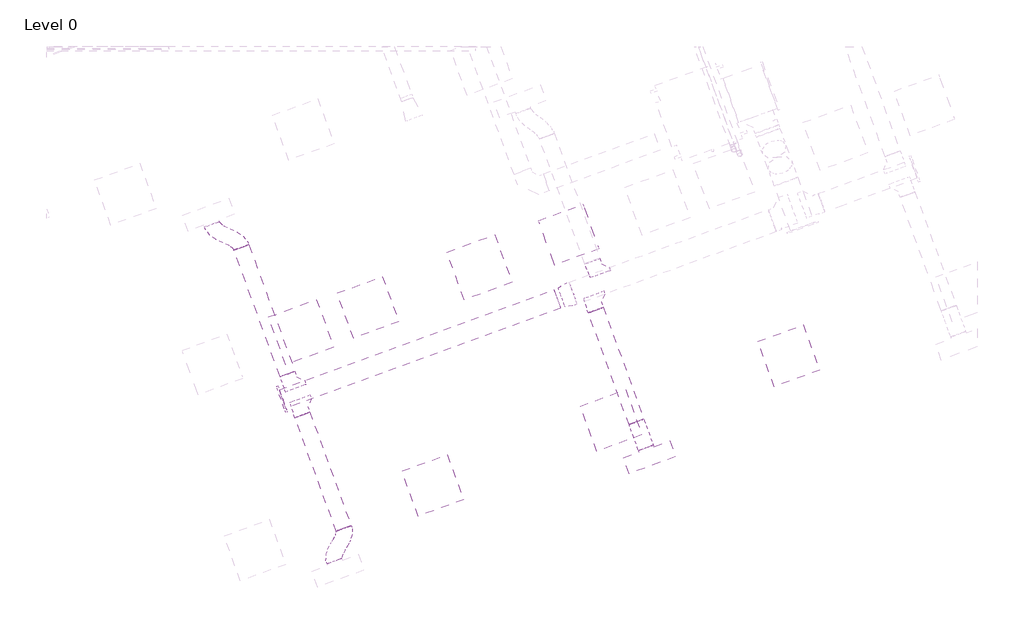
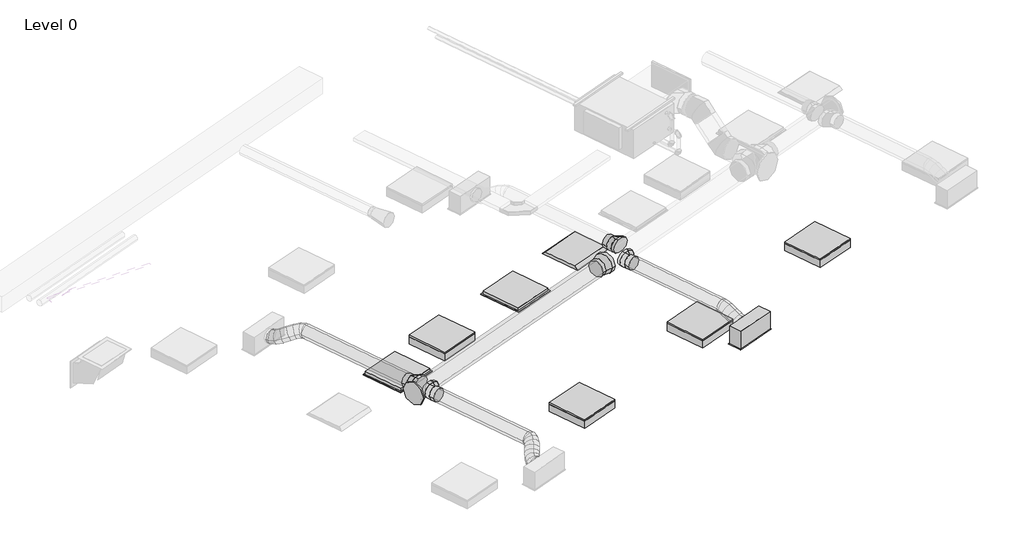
# One storey, part 20 of 34: 7 duct segments, 6 duct fittings, 5 light fixtures, 3 air terminals.
"""IFC4 building model written with IfcOpenShell, lengths in millimetres."""

from ifc_helpers import new_model, si_unit, point, frame, frame_2d, origin, place, context, project, spatial, circle_curve, ellipse_curve, trimmed, segment, composite_curve, outline, extrude, transform, mapped, element, save
from ifc_brep_helpers import plane_surface, cylinder_surface, advanced_brep
from components import return_grille_rectangular_hosted_standard_7b12617c, supply_diffuser_with_plenum_linear_slot_hosted_7a86b773, dw144_round_blank_end_standard_9aa061e7, dw144_round_shoe_branch_slip_joint1_standard_2_15a2edd8, dw144_round_shoe_branch_slip_joint1_standard_2_559552f4, dw144_round_shoe_branch_slip_joint1_standard_2_3a899113, dw144_round_taper_slip_joint_standard_7b2c0993, light_fixture_b730b5ca, troffer_light_2x2_parabolic_2_x2_2_lamp_120v_6a063ff3

model = new_model("IFC4")

# Units and contexts
model_context = context("Model", 3, world=origin())
ifc_project = project(units=[si_unit("LENGTHUNIT", "METRE", prefix="MILLI")], contexts=[model_context])

# Site, building, storey
site = spatial("IfcSite", under=ifc_project)
building = spatial("IfcBuilding", under=site)
storey = spatial("IfcBuildingStorey", under=building, Name="Level 0", Elevation=0.0)

# Air terminals
placement = place(None, origin())
return_grille_rectangular_hosted_standard_shape = return_grille_rectangular_hosted_standard_7b12617c(model_context)
element("IfcAirTerminal", 1, ObjectType="Return Grille - Rectangular - Hosted : Standard", at=placement, inside=storey, context=model_context, shape_type="MappedRepresentation", body=[
    mapped(return_grille_rectangular_hosted_standard_shape, transform((43552.4694696, 7593.8200472, 2800.0), x_axis=(0.939692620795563, 0.34202014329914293, 0.0), y_axis=(0.34202014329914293, -0.939692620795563, 0.0), z_axis=(0.0, 0.0, -1.0))),
])
element("IfcAirTerminal", 2, ObjectType="Return Grille - Rectangular - Hosted : Standard", at=placement, inside=storey, context=model_context, shape_type="MappedRepresentation", body=[
    mapped(return_grille_rectangular_hosted_standard_shape, transform((41292.9785622, 6771.4326123, 2800.0), x_axis=(0.939692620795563, 0.34202014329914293, 0.0), y_axis=(0.34202014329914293, -0.939692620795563, 0.0), z_axis=(0.0, 0.0, -1.0))),
])
supply_diffuser_with_plenum_linear_slot_hosted_shape = supply_diffuser_with_plenum_linear_slot_hosted_7a86b773(model_context)
element("IfcAirTerminal", 3, ObjectType="Supply Diffuser with Plenum - Linear Slot - Hosted : 24\" x 8\"-200 In Inlet  4-Slot", at=placement, inside=storey, context=model_context, shape_type="MappedRepresentation", body=[
    mapped(supply_diffuser_with_plenum_linear_slot_hosted_shape, transform((45706.1610442, 5185.1663567, 2800.0), x_axis=(-0.9396926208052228, -0.34202014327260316, 0.0), y_axis=(-0.34202014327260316, 0.9396926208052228, 0.0), z_axis=(0.0, 0.0, -1.0))),
])

# Duct fittings
dw144_round_blank_end_standard_shape = dw144_round_blank_end_standard_9aa061e7(model_context)
element("IfcDuctFitting", 4, ObjectType="DW144 Round Blank End : Standard", at=placement, inside=storey, context=model_context, shape_type="MappedRepresentation", body=[
    mapped(dw144_round_blank_end_standard_shape, transform((41058.5733499, 5925.2041513, 3072.2088531), x_axis=(-0.9396926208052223, -0.3420201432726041, 0.0), y_axis=(0.3420201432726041, -0.9396926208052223, 0.0), z_axis=(0.0, 0.0, 1.0))),
])
dw144_round_shoe_branch_slip_joint1_standard_2_shape = dw144_round_shoe_branch_slip_joint1_standard_2_15a2edd8(model_context)
element("IfcDuctFitting", 5, ObjectType="DW144 Round Shoe Branch - Slip Joint1 : Standard 2", at=placement, inside=storey, context=model_context, shape_type="MappedRepresentation", body=[
    mapped(dw144_round_shoe_branch_slip_joint1_standard_2_shape, transform((41257.502944, 5864.5863807, 3072.2088531), x_axis=(0.3420201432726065, -0.9396926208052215, 0.0), y_axis=(-0.9396926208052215, -0.3420201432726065, 0.0), z_axis=(0.0, 0.0, -1.0))),
])
dw144_round_shoe_branch_slip_joint1_standard_2_2_shape = dw144_round_shoe_branch_slip_joint1_standard_2_559552f4(model_context)
element("IfcDuctFitting", 6, ObjectType="DW144 Round Shoe Branch - Slip Joint1 : Standard 2", at=placement, inside=storey, context=model_context, shape_type="MappedRepresentation", body=[
    mapped(dw144_round_shoe_branch_slip_joint1_standard_2_2_shape, transform((41171.9979082, 6099.5095359, 3072.2088531), x_axis=(-0.34202014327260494, 0.9396926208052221, 0.0), y_axis=(0.9396926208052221, 0.34202014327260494, 0.0), z_axis=(0.0, 0.0, -1.0))),
])
dw144_round_shoe_branch_slip_joint1_standard_2_3_shape = dw144_round_shoe_branch_slip_joint1_standard_2_3a899113(model_context)
element("IfcDuctFitting", 7, ObjectType="DW144 Round Shoe Branch - Slip Joint1 : Standard 2", at=placement, inside=storey, context=model_context, shape_type="MappedRepresentation", body=[
    mapped(dw144_round_shoe_branch_slip_joint1_standard_2_3_shape, transform((45034.2380322, 7531.8544227, 3072.2088531), x_axis=(-0.342020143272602, 0.9396926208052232, 0.0), y_axis=(-0.9396926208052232, -0.342020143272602, 0.0), z_axis=(0.0, 0.0, 1.0))),
])
element("IfcDuctFitting", 8, ObjectType="DW144 Round Shoe Branch - Slip Joint1 : Standard 2", at=placement, inside=storey, context=model_context, shape_type="MappedRepresentation", body=[
    mapped(dw144_round_shoe_branch_slip_joint1_standard_2_3_shape, transform((44975.9560198, 7191.3881733, 3072.2088531), x_axis=(0.34202014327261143, -0.9396926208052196, 0.0), y_axis=(-0.9396926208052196, -0.34202014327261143, 0.0), z_axis=(0.0, 0.0, -1.0))),
])
dw144_round_taper_slip_joint_standard_shape = dw144_round_taper_slip_joint_standard_7b2c0993(model_context)
element("IfcDuctFitting", 9, ObjectType="DW144 Round Taper - Slip Joint : Standard", at=placement, inside=storey, context=model_context, shape_type="MappedRepresentation", body=[
    mapped(dw144_round_taper_slip_joint_standard_shape, transform((44738.6405983, 7264.6390896, 3072.2088531), x_axis=(-0.9396926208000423, -0.3420201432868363, 0.0), y_axis=(0.3420201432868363, -0.9396926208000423, 0.0), z_axis=(0.0, 0.0, 1.0))),
])

# Duct segments
element("IfcDuctSegment", 10, ObjectType="DW144 Segmented Bend / Shoe Branch", at=placement, inside=storey, context=model_context, shape_type="SweptSolid", body=[
    extrude(outline(composite_curve([segment(trimmed(circle_curve(frame_2d((0.0, -125.0)), 125.0), [point((-125.0, -125.0))], [point((0.0, 0.0))], False, "CARTESIAN"), True, "CONTINUOUS"), segment(trimmed(circle_curve(frame_2d((0.0, -125.0)), 125.0), [point((0.0, 0.0))], [point((125.0, -125.0))], False, "CARTESIAN"), True, "CONTINUOUS"), segment(trimmed(circle_curve(frame_2d((0.0, -125.0)), 125.0), [point((125.0, -125.0))], [point((0.0, -250.0))], False, "CARTESIAN"), True, "CONTINUOUS"), segment(trimmed(circle_curve(frame_2d((0.0, -125.0)), 125.0), [point((0.0, -250.0))], [point((-125.0, -125.0))], False, "CARTESIAN"), True, "CONTINUOUS")], self_intersect=False)), frame((41058.5733499, 5925.2041513, 2947.2088531), z_axis=(0.9396926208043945, 0.34202014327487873, 0.0), x_axis=(0.34202014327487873, -0.9396926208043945, 0.0)), (0.0, 0.0, 1.0), 3702.9444966),
])
element("IfcDuctSegment", 11, ObjectType="DW144 Segmented Bend / Shoe Branch", at=placement, inside=storey, context=model_context, shape_type="SweptSolid", body=[
    extrude(outline(composite_curve([segment(trimmed(circle_curve(frame_2d((0.0, 100.0)), 100.0), [point((100.0, 100.0))], [point((0.0, 0.0))], False, "CARTESIAN"), True, "CONTINUOUS"), segment(trimmed(circle_curve(frame_2d((0.0, 100.0)), 100.0), [point((0.0, 0.0))], [point((-99.9999999, 100.0))], False, "CARTESIAN"), True, "CONTINUOUS"), segment(trimmed(circle_curve(frame_2d((0.0, 100.0)), 100.0), [point((-99.9999999, 100.0))], [point((0.0, 200.0))], False, "CARTESIAN"), True, "CONTINUOUS"), segment(trimmed(circle_curve(frame_2d((0.0, 100.0)), 100.0), [point((0.0, 200.0))], [point((100.0, 100.0))], False, "CARTESIAN"), True, "CONTINUOUS")], self_intersect=False)), frame((45542.5721876, 5634.6230463, 3172.2088531), z_axis=(-0.3420201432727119, 0.9396926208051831, 0.0), x_axis=(0.9396926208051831, 0.3420201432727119, 0.0)), (0.0, 0.0, 1.0), 1506.6748451),
])
element("IfcDuctSegment", 12, ObjectType="DW144 Segmented Bend / Shoe Branch", at=placement, inside=storey, context=model_context, shape_type="SweptSolid", body=[
    extrude(outline(composite_curve([segment(trimmed(circle_curve(frame_2d((0.0, 100.0)), 100.0), [point((100.0, 100.0))], [point((0.0, 0.0))], False, "CARTESIAN"), True, "CONTINUOUS"), segment(trimmed(circle_curve(frame_2d((0.0, 100.0)), 100.0), [point((0.0, 0.0))], [point((-100.0, 100.0))], False, "CARTESIAN"), True, "CONTINUOUS"), segment(trimmed(circle_curve(frame_2d((0.0, 100.0)), 100.0), [point((-100.0, 100.0))], [point((0.0, 200.0))], False, "CARTESIAN"), True, "CONTINUOUS"), segment(trimmed(circle_curve(frame_2d((0.0, 100.0)), 100.0), [point((0.0, 200.0))], [point((100.0, 100.0))], False, "CARTESIAN"), True, "CONTINUOUS")], self_intersect=False)), frame((41832.6696155, 4284.328938, 3172.2088531), z_axis=(-0.3420201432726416, 0.9396926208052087, 0.0), x_axis=(0.9396926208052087, 0.3420201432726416, 0.0)), (0.0, 0.0, 1.0), 1531.6748453),
])
element("IfcDuctSegment", 13, ObjectType="DW144 Segmented Bend / Shoe Branch", at=placement, inside=storey, context=model_context, shape_type="SweptSolid", body=[
    extrude(outline(composite_curve([segment(trimmed(circle_curve(frame_2d((0.0, -100.0)), 100.0), [point((-100.0, -100.0))], [point((0.0, 0.0))], False, "CARTESIAN"), True, "CONTINUOUS"), segment(trimmed(circle_curve(frame_2d((0.0, -100.0)), 100.0), [point((0.0, 0.0))], [point((100.0, -100.0))], False, "CARTESIAN"), True, "CONTINUOUS"), segment(trimmed(circle_curve(frame_2d((0.0, -100.0)), 100.0), [point((100.0, -100.0))], [point((0.0, -200.0))], False, "CARTESIAN"), True, "CONTINUOUS"), segment(trimmed(circle_curve(frame_2d((0.0, -100.0)), 100.0), [point((0.0, -200.0))], [point((-100.0, -100.0))], False, "CARTESIAN"), True, "CONTINUOUS")], self_intersect=False)), frame((41120.6948867, 6240.463429, 2972.2088531), z_axis=(-0.34202014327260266, 0.9396926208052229, 0.0), x_axis=(0.9396926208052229, 0.34202014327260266, 0.0)), (0.0, 0.0, 1.0), 1708.3251547),
])
element("IfcDuctSegment", 14, ObjectType="Flex - Round", at=placement, inside=storey, context=model_context, shape_type="AdvancedBrep", body=[
    advanced_brep(
    [(45636.5414497, 5668.8250606, 3072.2088531), (45542.5721876, 5634.6230463, 2972.2088531), (45448.6029256, 5600.4210319, 3072.2088531), (45542.5721876, 5634.6230463, 3172.2088531), (45643.4221782, 5649.9204144, 3072.2088531), (45545.000967, 5627.95003, 2972.2088531), (45455.4836541, 5581.5163857, 3072.2088531), (45553.9048654, 5603.4867701, 3172.2088531), (45756.6937481, 5338.7093338, 2954.4), (45662.724486, 5304.5073195, 3054.4), (45568.755224, 5270.3053052, 2954.4), (45662.724486, 5304.5073195, 2854.4), (45667.1960388, 5584.6022693, 3053.8012198), (45561.469015, 5582.7044398, 2959.4579669), (45479.2575146, 5516.1982407, 3053.8012198), (45584.9845384, 5518.0960702, 3148.1444727), (45696.6175989, 5503.7671972, 3013.3044266), (45588.0806751, 5509.5895046, 2922.8288116), (45508.6790748, 5435.3631686, 3013.3044266), (45617.2159986, 5429.5408611, 3103.7800415), (45726.0391591, 5422.9321251, 2972.8076333), (45620.3121353, 5421.0342955, 2878.4643804), (45538.1006349, 5354.5280964, 2972.8076333), (45643.8276587, 5356.425926, 3067.1508862), (45749.8130196, 5357.6139801, 2954.4), (45651.3918083, 5335.6435957, 2854.4), (45561.8744954, 5289.2099514, 2954.4), (45660.2957067, 5311.1803358, 3054.4)],
    [
        (0, 1, circle_curve(frame((45542.5721876, 5634.6230463, 3072.2088531), z_axis=(-0.342020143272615, 0.9396926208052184, 0.0), x_axis=(0.9396926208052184, 0.342020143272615, 0.0)), 100.0)),
        (1, 2, circle_curve(frame((45542.5721876, 5634.6230463, 3072.2088531), z_axis=(-0.342020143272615, 0.9396926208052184, 0.0), x_axis=(0.9396926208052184, 0.342020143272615, 0.0)), 100.0)),
        (2, 3, circle_curve(frame((45542.5721876, 5634.6230463, 3072.2088531), z_axis=(-0.342020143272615, 0.9396926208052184, 0.0), x_axis=(0.9396926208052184, 0.342020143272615, 0.0)), 100.0)),
        (3, 0, circle_curve(frame((45542.5721876, 5634.6230463, 3072.2088531), z_axis=(-0.342020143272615, 0.9396926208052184, 0.0), x_axis=(0.9396926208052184, 0.342020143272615, 0.0)), 100.0)),
        (0, 4),
        (4, 5, ellipse_curve(frame((45549.4529162, 5615.7184, 3072.2088531), z_axis=(-0.33915898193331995, 0.9318316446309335, 0.12907738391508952), x_axis=(-0.04414706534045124, 0.12129306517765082, -0.9916345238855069)), 100.8436048, 100.0)),
        (5, 1),
        (5, 6, ellipse_curve(frame((45549.4529162, 5615.7184, 3072.2088531), z_axis=(-0.33915898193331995, 0.9318316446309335, 0.12907738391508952), x_axis=(-0.04414706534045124, 0.12129306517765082, -0.9916345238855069)), 100.8436048, 100.0)),
        (6, 2),
        (6, 7, ellipse_curve(frame((45549.4529162, 5615.7184, 3072.2088531), z_axis=(-0.33915898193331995, 0.9318316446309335, 0.12907738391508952), x_axis=(-0.04414706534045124, 0.12129306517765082, -0.9916345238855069)), 100.8436048, 100.0)),
        (7, 3),
        (7, 4, ellipse_curve(frame((45549.4529162, 5615.7184, 3072.2088531), z_axis=(-0.33915898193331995, 0.9318316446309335, 0.12907738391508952), x_axis=(-0.04414706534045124, 0.12129306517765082, -0.9916345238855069)), 100.8436048, 100.0)),
        (8, 9, circle_curve(frame((45662.724486, 5304.5073195, 2954.4), z_axis=(0.3420201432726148, -0.9396926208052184, 0.0), x_axis=(0.9396926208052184, 0.3420201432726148, 0.0)), 100.0)),
        (9, 10, circle_curve(frame((45662.724486, 5304.5073195, 2954.4), z_axis=(0.3420201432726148, -0.9396926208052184, 0.0), x_axis=(0.9396926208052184, 0.3420201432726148, 0.0)), 100.0)),
        (10, 11, circle_curve(frame((45662.724486, 5304.5073195, 2954.4), z_axis=(0.3420201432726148, -0.9396926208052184, 0.0), x_axis=(0.9396926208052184, 0.3420201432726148, 0.0)), 100.0)),
        (11, 8, circle_curve(frame((45662.724486, 5304.5073195, 2954.4), z_axis=(0.3420201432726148, -0.9396926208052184, 0.0), x_axis=(0.9396926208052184, 0.3420201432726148, 0.0)), 100.0)),
        (4, 12),
        (12, 13, ellipse_curve(frame((45573.2267767, 5550.400255, 3053.8012198), z_axis=(-0.3213508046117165, 0.8829040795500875, 0.3423653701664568), x_axis=(-0.1170958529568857, 0.32171821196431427, -0.9395668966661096)), 100.411427, 100.0)),
        (13, 5),
        (13, 14, ellipse_curve(frame((45573.2267767, 5550.400255, 3053.8012198), z_axis=(-0.3213508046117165, 0.8829040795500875, 0.3423653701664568), x_axis=(-0.1170958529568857, 0.32171821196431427, -0.9395668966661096)), 100.411427, 100.0)),
        (14, 6),
        (14, 15, ellipse_curve(frame((45573.2267767, 5550.400255, 3053.8012198), z_axis=(-0.3213508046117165, 0.8829040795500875, 0.3423653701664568), x_axis=(-0.1170958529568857, 0.32171821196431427, -0.9395668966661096)), 100.411427, 100.0)),
        (15, 7),
        (15, 12, ellipse_curve(frame((45573.2267767, 5550.400255, 3053.8012198), z_axis=(-0.3213508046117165, 0.8829040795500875, 0.3423653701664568), x_axis=(-0.1170958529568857, 0.32171821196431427, -0.9395668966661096)), 100.411427, 100.0)),
        (12, 16),
        (16, 17, circle_curve(frame((45602.6483368, 5469.5651829, 3013.3044266), z_axis=(-0.30944482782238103, 0.8501926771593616, 0.4259299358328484), x_axis=(0.939692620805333, 0.3420201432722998, 0.0)), 100.0)),
        (17, 13),
        (17, 18, circle_curve(frame((45602.6483368, 5469.5651829, 3013.3044266), z_axis=(-0.30944482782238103, 0.8501926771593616, 0.4259299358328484), x_axis=(0.939692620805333, 0.3420201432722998, 0.0)), 100.0)),
        (18, 14),
        (18, 19, circle_curve(frame((45602.6483368, 5469.5651829, 3013.3044266), z_axis=(-0.30944482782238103, 0.8501926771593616, 0.4259299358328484), x_axis=(0.939692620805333, 0.3420201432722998, 0.0)), 100.0)),
        (19, 15),
        (19, 16, circle_curve(frame((45602.6483368, 5469.5651829, 3013.3044266), z_axis=(-0.30944482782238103, 0.8501926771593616, 0.4259299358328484), x_axis=(0.939692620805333, 0.3420201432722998, 0.0)), 100.0)),
        (16, 20),
        (20, 21, ellipse_curve(frame((45632.069897, 5388.7301108, 2972.8076333), z_axis=(-0.3213508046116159, 0.8829040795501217, 0.342365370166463), x_axis=(0.11709585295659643, -0.3217182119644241, 0.9395668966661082)), 100.411427, 100.0)),
        (21, 17),
        (21, 22, ellipse_curve(frame((45632.069897, 5388.7301108, 2972.8076333), z_axis=(-0.3213508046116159, 0.8829040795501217, 0.342365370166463), x_axis=(0.11709585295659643, -0.3217182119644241, 0.9395668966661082)), 100.411427, 100.0)),
        (22, 18),
        (22, 23, ellipse_curve(frame((45632.069897, 5388.7301108, 2972.8076333), z_axis=(-0.3213508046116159, 0.8829040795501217, 0.342365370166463), x_axis=(0.11709585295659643, -0.3217182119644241, 0.9395668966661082)), 100.411427, 100.0)),
        (23, 19),
        (23, 20, ellipse_curve(frame((45632.069897, 5388.7301108, 2972.8076333), z_axis=(-0.3213508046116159, 0.8829040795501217, 0.342365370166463), x_axis=(0.11709585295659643, -0.3217182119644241, 0.9395668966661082)), 100.411427, 100.0)),
        (20, 24),
        (24, 25, ellipse_curve(frame((45655.8437575, 5323.4119657, 2954.4), z_axis=(-0.3391589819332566, 0.9318316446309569, 0.12907738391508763), x_axis=(0.044147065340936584, -0.1212930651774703, 0.9916345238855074)), 100.8436048, 100.0)),
        (25, 21),
        (25, 26, ellipse_curve(frame((45655.8437575, 5323.4119657, 2954.4), z_axis=(-0.3391589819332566, 0.9318316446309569, 0.12907738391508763), x_axis=(0.044147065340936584, -0.1212930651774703, 0.9916345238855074)), 100.8436048, 100.0)),
        (26, 22),
        (26, 27, ellipse_curve(frame((45655.8437575, 5323.4119657, 2954.4), z_axis=(-0.3391589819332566, 0.9318316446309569, 0.12907738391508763), x_axis=(0.044147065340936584, -0.1212930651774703, 0.9916345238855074)), 100.8436048, 100.0)),
        (27, 23),
        (27, 24, ellipse_curve(frame((45655.8437575, 5323.4119657, 2954.4), z_axis=(-0.3391589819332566, 0.9318316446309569, 0.12907738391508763), x_axis=(0.044147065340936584, -0.1212930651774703, 0.9916345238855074)), 100.8436048, 100.0)),
        (24, 8),
        (11, 25),
        (10, 26),
        (9, 27),
    ],
    [
        plane_surface(frame((45542.5721876, 5634.6230463, 2972.2088531), z_axis=(-0.3420201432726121, 0.9396926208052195, 0.0), x_axis=(0.9396926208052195, 0.3420201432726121, 0.0))),
        cylinder_surface(frame((45542.5721876, 5634.6230463, 3072.2088531), z_axis=(-0.342020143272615, 0.9396926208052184, 0.0), x_axis=(0.9396926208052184, 0.342020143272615, 0.0)), 100.0),
        plane_surface(frame((45662.724486, 5304.5073195, 2854.4), z_axis=(0.3420201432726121, -0.9396926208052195, 0.0), x_axis=(0.9396926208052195, 0.3420201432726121, 0.0))),
        cylinder_surface(frame((45549.4529162, 5615.7184, 3072.2088531), z_axis=(-0.3306233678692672, 0.9083802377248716, 0.2559951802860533), x_axis=(0.9396926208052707, 0.34202014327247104, 0.0)), 100.0),
        cylinder_surface(frame((45573.2267767, 5550.400255, 3053.8012198), z_axis=(-0.30944482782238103, 0.8501926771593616, 0.4259299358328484), x_axis=(0.939692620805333, 0.3420201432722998, 0.0)), 100.0),
        cylinder_surface(frame((45602.6483368, 5469.5651829, 3013.3044266), z_axis=(-0.3094448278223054, 0.8501926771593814, 0.425929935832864), x_axis=(0.9396926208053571, 0.3420201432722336, 0.0)), 100.0),
        cylinder_surface(frame((45632.069897, 5388.7301108, 2972.8076333), z_axis=(-0.3306233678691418, 0.9083802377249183, 0.2559951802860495), x_axis=(0.9396926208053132, 0.34202014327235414, 0.0)), 100.0),
        cylinder_surface(frame((45655.8437575, 5323.4119657, 2954.4), z_axis=(-0.3420201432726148, 0.9396926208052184, 0.0), x_axis=(0.9396926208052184, 0.3420201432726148, 0.0)), 100.0),
    ],
    [
        (0, [[1, 2, 3, 4]]),
        (1, [[-1, 5, 6, 7]]),
        (1, [[-2, -7, 8, 9]]),
        (1, [[-3, -9, 10, 11]]),
        (1, [[-4, -11, 12, -5]]),
        (2, [[13, 14, 15, 16]]),
        (3, [[-6, 17, 18, 19]]),
        (3, [[-8, -19, 20, 21]]),
        (3, [[-10, -21, 22, 23]]),
        (3, [[-12, -23, 24, -17]]),
        (4, [[-18, 25, 26, 27]]),
        (4, [[-20, -27, 28, 29]]),
        (4, [[-22, -29, 30, 31]]),
        (4, [[-24, -31, 32, -25]]),
        (5, [[-26, 33, 34, 35]]),
        (5, [[-28, -35, 36, 37]]),
        (5, [[-30, -37, 38, 39]]),
        (5, [[-32, -39, 40, -33]]),
        (6, [[-34, 41, 42, 43]]),
        (6, [[-36, -43, 44, 45]]),
        (6, [[-38, -45, 46, 47]]),
        (6, [[-40, -47, 48, -41]]),
        (7, [[-42, 49, -16, 50]]),
        (7, [[-44, -50, -15, 51]]),
        (7, [[-46, -51, -14, 52]]),
        (7, [[-48, -52, -13, -49]]),
    ],
),
])
element("IfcDuctSegment", 15, ObjectType="Flex - Round", at=placement, inside=storey, context=model_context, shape_type="AdvancedBrep", body=[
    advanced_brep(
    [(41926.6388776, 4318.5309523, 3072.2088531), (41832.6696155, 4284.328938, 2972.2088531), (41738.7003534, 4250.1269236, 3072.2088531), (41832.6696155, 4284.328938, 3172.2088531), (41941.0574951, 4278.9161262, 3072.2088531), (41837.6142219, 4270.7437437, 2972.2088531), (41740.2070933, 4245.9871897, 3072.2088531), (41843.6503666, 4254.1595723, 3172.2088531), (41809.9847408, 3902.2247319, 2954.4), (41716.0154787, 3868.0227175, 3054.4), (41622.0462167, 3833.8207032, 2954.4), (41716.0154787, 3868.0227175, 2854.4), (41939.2270134, 4210.6874279, 3060.4956297), (41836.9733665, 4246.8567365, 2968.1080296), (41739.9979217, 4238.1906017, 3070.8703668), (41842.2515686, 4202.0212932, 3163.257967), (41917.0279932, 4131.465289, 3038.0768695), (41822.8956342, 4196.6172192, 2953.890947), (41728.8671886, 4198.4681063, 3059.6294547), (41822.9995476, 4133.3161761, 3143.8153772), (41880.8771843, 4062.0216285, 3011.0926443), (41794.5537605, 4142.1740818, 2932.7355836), (41703.3589696, 4149.4682594, 3040.58923), (41789.6823934, 4069.3158061, 3118.9462908), (41845.3261246, 4002.8833961, 2986.0196231), (41759.0027009, 4083.0358494, 2907.6625623), (41667.8079099, 4090.3300269, 3015.5162088), (41754.1313337, 4010.1775737, 3093.8732696), (41819.8179057, 3953.8835492, 2966.9793984), (41725.6855467, 4019.0354794, 2882.7934759), (41631.6571011, 4020.8863665, 2988.5319836), (41725.7894601, 3955.7344363, 3072.7179061), (41808.6871726, 3914.1610538, 2955.7384863), (41706.4335256, 3950.3303623, 2863.3508861), (41609.4580808, 3941.6642276, 2966.1132234), (41711.7117278, 3905.494919, 3058.5008235), (41808.4780009, 3906.3644658, 2954.4), (41705.0347276, 3898.1920832, 2854.4), (41607.6275991, 3873.4355293, 2954.4), (41711.0708724, 3881.6079118, 3054.4)],
    [
        (0, 1, circle_curve(frame((41832.6696155, 4284.328938, 3072.2088531), z_axis=(-0.34202014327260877, 0.9396926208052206, 0.0), x_axis=(0.9396926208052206, 0.34202014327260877, 0.0)), 100.0)),
        (1, 2, circle_curve(frame((41832.6696155, 4284.328938, 3072.2088531), z_axis=(-0.34202014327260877, 0.9396926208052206, 0.0), x_axis=(0.9396926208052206, 0.34202014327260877, 0.0)), 100.0)),
        (2, 3, circle_curve(frame((41832.6696155, 4284.328938, 3072.2088531), z_axis=(-0.34202014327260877, 0.9396926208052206, 0.0), x_axis=(0.9396926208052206, 0.34202014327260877, 0.0)), 100.0)),
        (3, 0, circle_curve(frame((41832.6696155, 4284.328938, 3072.2088531), z_axis=(-0.34202014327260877, 0.9396926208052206, 0.0), x_axis=(0.9396926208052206, 0.34202014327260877, 0.0)), 100.0)),
        (0, 4),
        (4, 5, ellipse_curve(frame((41840.6322942, 4262.451658, 3072.2088531), z_axis=(-0.161182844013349, 0.9831364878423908, 0.08638713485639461), x_axis=(-0.9031339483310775, -0.11163689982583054, -0.4145916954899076)), 102.1477711, 100.0)),
        (5, 1),
        (5, 6, ellipse_curve(frame((41840.6322942, 4262.451658, 3072.2088531), z_axis=(-0.161182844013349, 0.9831364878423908, 0.08638713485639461), x_axis=(-0.9031339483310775, -0.11163689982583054, -0.4145916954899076)), 102.1477711, 100.0)),
        (6, 2),
        (6, 7, ellipse_curve(frame((41840.6322942, 4262.451658, 3072.2088531), z_axis=(-0.161182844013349, 0.9831364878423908, 0.08638713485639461), x_axis=(-0.9031339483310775, -0.11163689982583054, -0.4145916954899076)), 102.1477711, 100.0)),
        (7, 3),
        (7, 4, ellipse_curve(frame((41840.6322942, 4262.451658, 3072.2088531), z_axis=(-0.161182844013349, 0.9831364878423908, 0.08638713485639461), x_axis=(-0.9031339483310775, -0.11163689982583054, -0.4145916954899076)), 102.1477711, 100.0)),
        (8, 9, circle_curve(frame((41716.0154787, 3868.0227175, 2954.4), z_axis=(0.34202014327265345, -0.9396926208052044, 0.0), x_axis=(0.9396926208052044, 0.34202014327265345, 0.0)), 100.0)),
        (9, 10, circle_curve(frame((41716.0154787, 3868.0227175, 2954.4), z_axis=(0.34202014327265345, -0.9396926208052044, 0.0), x_axis=(0.9396926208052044, 0.34202014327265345, 0.0)), 100.0)),
        (10, 11, circle_curve(frame((41716.0154787, 3868.0227175, 2954.4), z_axis=(0.34202014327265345, -0.9396926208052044, 0.0), x_axis=(0.9396926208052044, 0.34202014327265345, 0.0)), 100.0)),
        (11, 8, circle_curve(frame((41716.0154787, 3868.0227175, 2954.4), z_axis=(0.34202014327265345, -0.9396926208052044, 0.0), x_axis=(0.9396926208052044, 0.34202014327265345, 0.0)), 100.0)),
        (4, 12),
        (12, 13, ellipse_curve(frame((41839.6124675, 4224.4390148, 3065.6829983), z_axis=(0.14458995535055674, 0.9652134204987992, 0.21784581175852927), x_axis=(-0.9059385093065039, 0.21767683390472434, -0.3631696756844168)), 100.8437717, 100.0)),
        (13, 5),
        (13, 14, ellipse_curve(frame((41839.6124675, 4224.4390148, 3065.6829983), z_axis=(0.14458995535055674, 0.9652134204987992, 0.21784581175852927), x_axis=(-0.9059385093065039, 0.21767683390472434, -0.3631696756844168)), 100.8437717, 100.0)),
        (14, 6),
        (14, 15, ellipse_curve(frame((41839.6124675, 4224.4390148, 3065.6829983), z_axis=(0.14458995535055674, 0.9652134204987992, 0.21784581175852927), x_axis=(-0.9059385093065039, 0.21767683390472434, -0.3631696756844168)), 100.8437717, 100.0)),
        (15, 7),
        (15, 12, ellipse_curve(frame((41839.6124675, 4224.4390148, 3065.6829983), z_axis=(0.14458995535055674, 0.9652134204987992, 0.21784581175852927), x_axis=(-0.9059385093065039, 0.21767683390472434, -0.3631696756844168)), 100.8437717, 100.0)),
        (12, 16),
        (16, 17, ellipse_curve(frame((41822.9475909, 4164.9666976, 3048.8531621), z_axis=(0.35033710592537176, 0.8886266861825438, 0.29598399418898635), x_axis=(-0.847876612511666, 0.43515832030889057, -0.3028902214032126)), 100.5443955, 100.0)),
        (17, 13),
        (17, 18, ellipse_curve(frame((41822.9475909, 4164.9666976, 3048.8531621), z_axis=(0.35033710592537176, 0.8886266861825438, 0.29598399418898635), x_axis=(-0.847876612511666, 0.43515832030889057, -0.3028902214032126)), 100.5443955, 100.0)),
        (18, 14),
        (18, 19, ellipse_curve(frame((41822.9475909, 4164.9666976, 3048.8531621), z_axis=(0.35033710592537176, 0.8886266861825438, 0.29598399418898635), x_axis=(-0.847876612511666, 0.43515832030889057, -0.3028902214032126)), 100.5443955, 100.0)),
        (19, 15),
        (19, 16, ellipse_curve(frame((41822.9475909, 4164.9666976, 3048.8531621), z_axis=(0.35033710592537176, 0.8886266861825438, 0.29598399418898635), x_axis=(-0.847876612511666, 0.43515832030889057, -0.3028902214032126)), 100.5443955, 100.0)),
        (16, 20),
        (20, 21, ellipse_curve(frame((41792.118077, 4105.744944, 3025.8409372), z_axis=(0.46060606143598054, 0.8224308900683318, 0.33384051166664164), x_axis=(-0.793393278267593, 0.5501159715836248, -0.2605753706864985)), 100.0451953, 100.0)),
        (21, 17),
        (21, 22, ellipse_curve(frame((41792.118077, 4105.744944, 3025.8409372), z_axis=(0.46060606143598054, 0.8224308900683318, 0.33384051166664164), x_axis=(-0.793393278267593, 0.5501159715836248, -0.2605753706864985)), 100.0451953, 100.0)),
        (22, 18),
        (22, 23, ellipse_curve(frame((41792.118077, 4105.744944, 3025.8409372), z_axis=(0.46060606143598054, 0.8224308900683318, 0.33384051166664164), x_axis=(-0.793393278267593, 0.5501159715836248, -0.2605753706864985)), 100.0451953, 100.0)),
        (23, 19),
        (23, 20, ellipse_curve(frame((41792.118077, 4105.744944, 3025.8409372), z_axis=(0.46060606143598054, 0.8224308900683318, 0.33384051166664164), x_axis=(-0.793393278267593, 0.5501159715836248, -0.2605753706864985)), 100.0451953, 100.0)),
        (20, 24),
        (24, 25, ellipse_curve(frame((41756.5670173, 4046.6067115, 3000.767916), z_axis=(0.460606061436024, 0.8224308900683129, 0.3338405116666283), x_axis=(0.7933932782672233, -0.5501159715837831, 0.2605753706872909)), 100.0451953, 100.0)),
        (25, 21),
        (25, 26, ellipse_curve(frame((41756.5670173, 4046.6067115, 3000.767916), z_axis=(0.460606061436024, 0.8224308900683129, 0.3338405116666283), x_axis=(0.7933932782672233, -0.5501159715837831, 0.2605753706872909)), 100.0451953, 100.0)),
        (26, 22),
        (26, 27, ellipse_curve(frame((41756.5670173, 4046.6067115, 3000.767916), z_axis=(0.460606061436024, 0.8224308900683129, 0.3338405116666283), x_axis=(0.7933932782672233, -0.5501159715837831, 0.2605753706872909)), 100.0451953, 100.0)),
        (27, 23),
        (27, 24, ellipse_curve(frame((41756.5670173, 4046.6067115, 3000.767916), z_axis=(0.460606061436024, 0.8224308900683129, 0.3338405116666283), x_axis=(0.7933932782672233, -0.5501159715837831, 0.2605753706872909)), 100.0451953, 100.0)),
        (24, 28),
        (28, 29, ellipse_curve(frame((41725.7375034, 3987.3849579, 2977.755691), z_axis=(0.3503371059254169, 0.8886266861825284, 0.29598399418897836), x_axis=(0.8478766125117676, -0.43515832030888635, 0.3028902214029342)), 100.5443955, 100.0)),
        (29, 25),
        (29, 30, ellipse_curve(frame((41725.7375034, 3987.3849579, 2977.755691), z_axis=(0.3503371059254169, 0.8886266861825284, 0.29598399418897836), x_axis=(0.8478766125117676, -0.43515832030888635, 0.3028902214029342)), 100.5443955, 100.0)),
        (30, 26),
        (30, 31, ellipse_curve(frame((41725.7375034, 3987.3849579, 2977.755691), z_axis=(0.3503371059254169, 0.8886266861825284, 0.29598399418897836), x_axis=(0.8478766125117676, -0.43515832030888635, 0.3028902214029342)), 100.5443955, 100.0)),
        (31, 27),
        (31, 28, ellipse_curve(frame((41725.7375034, 3987.3849579, 2977.755691), z_axis=(0.3503371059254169, 0.8886266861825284, 0.29598399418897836), x_axis=(0.8478766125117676, -0.43515832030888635, 0.3028902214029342)), 100.5443955, 100.0)),
        (28, 32),
        (32, 33, ellipse_curve(frame((41709.0726267, 3927.9126407, 2960.9258548), z_axis=(0.14458995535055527, 0.9652134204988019, 0.2178458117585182), x_axis=(0.9059385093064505, -0.2176768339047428, 0.3631696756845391)), 100.8437717, 100.0)),
        (33, 29),
        (33, 34, ellipse_curve(frame((41709.0726267, 3927.9126407, 2960.9258548), z_axis=(0.14458995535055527, 0.9652134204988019, 0.2178458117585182), x_axis=(0.9059385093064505, -0.2176768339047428, 0.3631696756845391)), 100.8437717, 100.0)),
        (34, 30),
        (34, 35, ellipse_curve(frame((41709.0726267, 3927.9126407, 2960.9258548), z_axis=(0.14458995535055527, 0.9652134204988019, 0.2178458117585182), x_axis=(0.9059385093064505, -0.2176768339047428, 0.3631696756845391)), 100.8437717, 100.0)),
        (35, 31),
        (35, 32, ellipse_curve(frame((41709.0726267, 3927.9126407, 2960.9258548), z_axis=(0.14458995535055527, 0.9652134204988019, 0.2178458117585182), x_axis=(0.9059385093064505, -0.2176768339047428, 0.3631696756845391)), 100.8437717, 100.0)),
        (32, 36),
        (36, 37, ellipse_curve(frame((41708.0528, 3889.8999975, 2954.4), z_axis=(-0.1611828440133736, 0.9831364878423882, 0.08638713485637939), x_axis=(0.9031339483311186, 0.11163689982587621, 0.41459169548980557)), 102.1477711, 100.0)),
        (37, 33),
        (37, 38, ellipse_curve(frame((41708.0528, 3889.8999975, 2954.4), z_axis=(-0.1611828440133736, 0.9831364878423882, 0.08638713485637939), x_axis=(0.9031339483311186, 0.11163689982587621, 0.41459169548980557)), 102.1477711, 100.0)),
        (38, 34),
        (38, 39, ellipse_curve(frame((41708.0528, 3889.8999975, 2954.4), z_axis=(-0.1611828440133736, 0.9831364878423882, 0.08638713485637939), x_axis=(0.9031339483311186, 0.11163689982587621, 0.41459169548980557)), 102.1477711, 100.0)),
        (39, 35),
        (39, 36, ellipse_curve(frame((41708.0528, 3889.8999975, 2954.4), z_axis=(-0.1611828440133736, 0.9831364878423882, 0.08638713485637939), x_axis=(0.9031339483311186, 0.11163689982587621, 0.41459169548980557)), 102.1477711, 100.0)),
        (36, 8),
        (11, 37),
        (10, 38),
        (9, 39),
    ],
    [
        plane_surface(frame((41832.6696155, 4284.328938, 2972.2088531), z_axis=(-0.3420201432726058, 0.9396926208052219, 0.0), x_axis=(0.9396926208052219, 0.3420201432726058, 0.0))),
        cylinder_surface(frame((41832.6696155, 4284.328938, 3072.2088531), z_axis=(-0.34202014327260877, 0.9396926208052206, 0.0), x_axis=(0.9396926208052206, 0.34202014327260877, 0.0)), 100.0),
        plane_surface(frame((41716.0154787, 3868.0227175, 2854.4), z_axis=(0.3420201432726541, -0.9396926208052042, 0.0), x_axis=(0.9396926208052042, 0.3420201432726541, 0.0))),
        cylinder_surface(frame((41840.6322942, 4262.451658, 3072.2088531), z_axis=(0.02643255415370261, 0.9852372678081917, 0.16914149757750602), x_axis=(0.9992626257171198, -0.021327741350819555, -0.03192698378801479)), 100.0),
        cylinder_surface(frame((41839.6124675, 4224.4390148, 3065.6829983), z_axis=(0.2603277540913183, 0.9290374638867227, 0.26290464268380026), x_axis=(0.9654452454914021, -0.24707640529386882, -0.08287778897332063)), 100.0),
        cylinder_surface(frame((41822.9475909, 4164.9666976, 3048.8531621), z_axis=(0.4365526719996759, 0.8385930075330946, 0.3258581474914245), x_axis=(0.8994822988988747, -0.4143907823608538, -0.1386069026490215)), 100.0),
        cylinder_surface(frame((41792.118077, 4105.744944, 3025.8409372), z_axis=(0.4842432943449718, 0.8055257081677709, 0.3415212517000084), x_axis=(0.8744008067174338, -0.4591748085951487, -0.15678559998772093)), 100.0),
        cylinder_surface(frame((41756.5670173, 4046.6067115, 3000.767916), z_axis=(0.4365526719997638, 0.8385930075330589, 0.3258581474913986), x_axis=(0.899482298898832, -0.41439078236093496, -0.13860690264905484)), 100.0),
        cylinder_surface(frame((41725.7375034, 3987.3849579, 2977.755691), z_axis=(0.26032775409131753, 0.9290374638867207, 0.26290464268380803), x_axis=(0.9654452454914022, -0.24707640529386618, -0.08287778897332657)), 100.0),
        cylinder_surface(frame((41709.0726267, 3927.9126407, 2960.9258548), z_axis=(0.026432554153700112, 0.9852372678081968, 0.16914149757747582), x_axis=(0.9992626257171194, -0.021327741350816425, -0.03192698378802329)), 100.0),
        cylinder_surface(frame((41708.0528, 3889.8999975, 2954.4), z_axis=(-0.34202014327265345, 0.9396926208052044, 0.0), x_axis=(0.9396926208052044, 0.34202014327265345, 0.0)), 100.0),
    ],
    [
        (0, [[1, 2, 3, 4]]),
        (1, [[-1, 5, 6, 7]]),
        (1, [[-2, -7, 8, 9]]),
        (1, [[-3, -9, 10, 11]]),
        (1, [[-4, -11, 12, -5]]),
        (2, [[13, 14, 15, 16]]),
        (3, [[-6, 17, 18, 19]]),
        (3, [[-8, -19, 20, 21]]),
        (3, [[-10, -21, 22, 23]]),
        (3, [[-12, -23, 24, -17]]),
        (4, [[-18, 25, 26, 27]]),
        (4, [[-20, -27, 28, 29]]),
        (4, [[-22, -29, 30, 31]]),
        (4, [[-24, -31, 32, -25]]),
        (5, [[-26, 33, 34, 35]]),
        (5, [[-28, -35, 36, 37]]),
        (5, [[-30, -37, 38, 39]]),
        (5, [[-32, -39, 40, -33]]),
        (6, [[-34, 41, 42, 43]]),
        (6, [[-36, -43, 44, 45]]),
        (6, [[-38, -45, 46, 47]]),
        (6, [[-40, -47, 48, -41]]),
        (7, [[-42, 49, 50, 51]]),
        (7, [[-44, -51, 52, 53]]),
        (7, [[-46, -53, 54, 55]]),
        (7, [[-48, -55, 56, -49]]),
        (8, [[-50, 57, 58, 59]]),
        (8, [[-52, -59, 60, 61]]),
        (8, [[-54, -61, 62, 63]]),
        (8, [[-56, -63, 64, -57]]),
        (9, [[-58, 65, 66, 67]]),
        (9, [[-60, -67, 68, 69]]),
        (9, [[-62, -69, 70, 71]]),
        (9, [[-64, -71, 72, -65]]),
        (10, [[-66, 73, -16, 74]]),
        (10, [[-68, -74, -15, 75]]),
        (10, [[-70, -75, -14, 76]]),
        (10, [[-72, -76, -13, -73]]),
    ],
),
])
element("IfcDuctSegment", 16, ObjectType="Flex - Round", at=placement, inside=storey, context=model_context, shape_type="AdvancedBrep", body=[
    advanced_brep(
    [(40442.4440104, 7811.5619565, 3072.2088531), (40536.4132725, 7845.7639708, 2972.2088531), (40630.3825346, 7879.9659851, 3072.2088531), (40536.4132725, 7845.7639708, 3172.2088531), (40440.1723141, 7817.8033909, 3072.2088531), (40530.9511554, 7860.7710143, 2972.2088531), (40616.1283126, 7919.1291381, 3072.2088531), (40525.3494713, 7876.1615147, 3172.2088531), (40067.2226453, 8105.6633574, 2954.4), (40161.1919074, 8139.8653717, 3054.4), (40255.1611695, 8174.067386, 2954.4), (40161.1919074, 8139.8653717, 2854.4), (40424.364338, 7836.6431355, 3068.2767826), (40504.8788897, 7891.8436085, 2965.7236467), (40561.7699003, 7983.9128018, 3058.6877603), (40481.2553486, 7928.7123288, 3161.2408961), (40374.2377135, 7871.32015, 3051.800933), (40446.0997838, 7932.5063088, 2946.4038598), (40479.14644, 8041.0707485, 3031.5307012), (40407.2843697, 7979.8845898, 3136.9277745), (40302.8939119, 7904.8619618, 3025.8229801), (40371.2703247, 7967.6868792, 2919.1566971), (40394.711268, 8080.7673807, 3000.785873), (40326.3348552, 8017.9424633, 3107.452156), (40218.4587399, 7944.558594, 2995.0781519), (40290.3208102, 8005.7447528, 2889.6810786), (40323.3674664, 8114.3091925, 2974.8079201), (40251.5053961, 8053.1230337, 3080.2049934), (40135.8352796, 8001.7165407, 2967.9210929), (40216.3498314, 8056.9170137, 2865.367957), (40273.2408419, 8148.986207, 2958.3320706), (40192.7262902, 8093.785734, 3060.8852064), (40081.4768673, 8066.5002044, 2954.4), (40172.2557086, 8109.4678278, 2854.4), (40257.4328658, 8167.8259517, 2954.4), (40166.6540245, 8124.8583283, 3054.4)],
    [
        (0, 1, circle_curve(frame((40536.4132725, 7845.7639708, 3072.2088531), z_axis=(0.3420201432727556, -0.9396926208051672, 0.0), x_axis=(-0.9396926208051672, -0.3420201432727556, 0.0)), 100.0)),
        (1, 2, circle_curve(frame((40536.4132725, 7845.7639708, 3072.2088531), z_axis=(0.3420201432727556, -0.9396926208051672, 0.0), x_axis=(-0.9396926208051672, -0.3420201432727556, 0.0)), 100.0)),
        (2, 3, circle_curve(frame((40536.4132725, 7845.7639708, 3072.2088531), z_axis=(0.3420201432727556, -0.9396926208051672, 0.0), x_axis=(-0.9396926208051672, -0.3420201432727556, 0.0)), 100.0)),
        (3, 0, circle_curve(frame((40536.4132725, 7845.7639708, 3072.2088531), z_axis=(0.3420201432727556, -0.9396926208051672, 0.0), x_axis=(-0.9396926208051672, -0.3420201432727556, 0.0)), 100.0)),
        (0, 4),
        (4, 5, ellipse_curve(frame((40528.1503134, 7868.4662645, 3072.2088531), z_axis=(0.497414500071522, -0.8637791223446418, 0.08040175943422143), x_axis=(-0.7708499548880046, -0.4826031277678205, -0.41579390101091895)), 101.8524261, 100.0)),
        (5, 1),
        (5, 6, ellipse_curve(frame((40528.1503134, 7868.4662645, 3072.2088531), z_axis=(0.497414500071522, -0.8637791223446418, 0.08040175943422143), x_axis=(-0.7708499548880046, -0.4826031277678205, -0.41579390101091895)), 101.8524261, 100.0)),
        (6, 2),
        (6, 7, ellipse_curve(frame((40528.1503134, 7868.4662645, 3072.2088531), z_axis=(0.497414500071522, -0.8637791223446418, 0.08040175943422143), x_axis=(-0.7708499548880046, -0.4826031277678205, -0.41579390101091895)), 101.8524261, 100.0)),
        (7, 3),
        (7, 4, ellipse_curve(frame((40528.1503134, 7868.4662645, 3072.2088531), z_axis=(0.497414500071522, -0.8637791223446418, 0.08040175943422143), x_axis=(-0.7708499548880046, -0.4826031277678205, -0.41579390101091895)), 101.8524261, 100.0)),
        (8, 9, circle_curve(frame((40161.1919074, 8139.8653717, 2954.4), z_axis=(-0.3420201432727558, 0.9396926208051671, 0.0), x_axis=(-0.9396926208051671, -0.3420201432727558, 0.0)), 100.0)),
        (9, 10, circle_curve(frame((40161.1919074, 8139.8653717, 2954.4), z_axis=(-0.3420201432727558, 0.9396926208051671, 0.0), x_axis=(-0.9396926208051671, -0.3420201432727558, 0.0)), 100.0)),
        (10, 11, circle_curve(frame((40161.1919074, 8139.8653717, 2954.4), z_axis=(-0.3420201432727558, 0.9396926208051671, 0.0), x_axis=(-0.9396926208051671, -0.3420201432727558, 0.0)), 100.0)),
        (11, 8, circle_curve(frame((40161.1919074, 8139.8653717, 2954.4), z_axis=(-0.3420201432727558, 0.9396926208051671, 0.0), x_axis=(-0.9396926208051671, -0.3420201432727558, 0.0)), 100.0)),
        (4, 12),
        (12, 13, ellipse_curve(frame((40493.0671191, 7910.2779687, 3063.4822714), z_axis=(0.7214591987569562, -0.6593642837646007, 0.21150736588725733), x_axis=(-0.5666810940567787, -0.7377390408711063, -0.36689732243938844)), 101.0011901, 100.0)),
        (13, 5),
        (13, 14, ellipse_curve(frame((40493.0671191, 7910.2779687, 3063.4822714), z_axis=(0.7214591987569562, -0.6593642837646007, 0.21150736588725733), x_axis=(-0.5666810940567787, -0.7377390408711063, -0.36689732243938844)), 101.0011901, 100.0)),
        (14, 6),
        (14, 15, ellipse_curve(frame((40493.0671191, 7910.2779687, 3063.4822714), z_axis=(0.7214591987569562, -0.6593642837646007, 0.21150736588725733), x_axis=(-0.5666810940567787, -0.7377390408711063, -0.36689732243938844)), 101.0011901, 100.0)),
        (15, 7),
        (15, 12, ellipse_curve(frame((40493.0671191, 7910.2779687, 3063.4822714), z_axis=(0.7214591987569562, -0.6593642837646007, 0.21150736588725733), x_axis=(-0.5666810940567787, -0.7377390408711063, -0.36689732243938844)), 101.0011901, 100.0)),
        (12, 16),
        (16, 17, ellipse_curve(frame((40426.6920768, 7956.1954493, 3041.6658171), z_axis=(0.829621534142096, -0.47833332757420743, 0.2879675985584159), x_axis=(-0.3916107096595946, -0.8661508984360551, -0.3105216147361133)), 100.3527389, 100.0)),
        (17, 13),
        (17, 18, ellipse_curve(frame((40426.6920768, 7956.1954493, 3041.6658171), z_axis=(0.829621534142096, -0.47833332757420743, 0.2879675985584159), x_axis=(-0.3916107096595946, -0.8661508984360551, -0.3105216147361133)), 100.3527389, 100.0)),
        (18, 14),
        (18, 19, ellipse_curve(frame((40426.6920768, 7956.1954493, 3041.6658171), z_axis=(0.829621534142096, -0.47833332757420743, 0.2879675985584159), x_axis=(-0.3916107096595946, -0.8661508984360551, -0.3105216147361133)), 100.3527389, 100.0)),
        (19, 15),
        (19, 16, ellipse_curve(frame((40426.6920768, 7956.1954493, 3041.6658171), z_axis=(0.829621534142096, -0.47833332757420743, 0.2879675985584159), x_axis=(-0.3916107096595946, -0.8661508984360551, -0.3105216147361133)), 100.3527389, 100.0)),
        (16, 20),
        (20, 21, circle_curve(frame((40348.80259, 7992.8146713, 3013.3044266), z_axis=(0.8595111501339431, -0.4040934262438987, 0.31296818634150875), x_axis=(-0.45908678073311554, -0.8795270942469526, 0.12518553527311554)), 100.0)),
        (21, 17),
        (21, 22, circle_curve(frame((40348.80259, 7992.8146713, 3013.3044266), z_axis=(0.8595111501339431, -0.4040934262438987, 0.31296818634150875), x_axis=(-0.45908678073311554, -0.8795270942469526, 0.12518553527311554)), 100.0)),
        (22, 18),
        (22, 23, circle_curve(frame((40348.80259, 7992.8146713, 3013.3044266), z_axis=(0.8595111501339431, -0.4040934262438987, 0.31296818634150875), x_axis=(-0.45908678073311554, -0.8795270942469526, 0.12518553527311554)), 100.0)),
        (23, 19),
        (23, 20, circle_curve(frame((40348.80259, 7992.8146713, 3013.3044266), z_axis=(0.8595111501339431, -0.4040934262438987, 0.31296818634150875), x_axis=(-0.45908678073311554, -0.8795270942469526, 0.12518553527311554)), 100.0)),
        (20, 24),
        (24, 25, ellipse_curve(frame((40270.9131031, 8029.4338932, 2984.943036), z_axis=(0.8296215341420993, -0.47833332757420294, 0.2879675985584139), x_axis=(0.3916107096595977, 0.8661508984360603, 0.310521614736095)), 100.3527389, 100.0)),
        (25, 21),
        (25, 26, ellipse_curve(frame((40270.9131031, 8029.4338932, 2984.943036), z_axis=(0.8296215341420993, -0.47833332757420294, 0.2879675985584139), x_axis=(0.3916107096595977, 0.8661508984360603, 0.310521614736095)), 100.3527389, 100.0)),
        (26, 22),
        (26, 27, ellipse_curve(frame((40270.9131031, 8029.4338932, 2984.943036), z_axis=(0.8296215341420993, -0.47833332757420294, 0.2879675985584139), x_axis=(0.3916107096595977, 0.8661508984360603, 0.310521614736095)), 100.3527389, 100.0)),
        (27, 23),
        (27, 24, ellipse_curve(frame((40270.9131031, 8029.4338932, 2984.943036), z_axis=(0.8296215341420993, -0.47833332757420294, 0.2879675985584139), x_axis=(0.3916107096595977, 0.8661508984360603, 0.310521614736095)), 100.3527389, 100.0)),
        (24, 28),
        (28, 29, ellipse_curve(frame((40204.5380608, 8075.3513738, 2963.1265817), z_axis=(0.7214591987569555, -0.6593642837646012, 0.21150736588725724), x_axis=(0.5666810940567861, 0.7377390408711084, 0.3668973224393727)), 101.0011901, 100.0)),
        (29, 25),
        (29, 30, ellipse_curve(frame((40204.5380608, 8075.3513738, 2963.1265817), z_axis=(0.7214591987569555, -0.6593642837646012, 0.21150736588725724), x_axis=(0.5666810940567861, 0.7377390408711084, 0.3668973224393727)), 101.0011901, 100.0)),
        (30, 26),
        (30, 31, ellipse_curve(frame((40204.5380608, 8075.3513738, 2963.1265817), z_axis=(0.7214591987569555, -0.6593642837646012, 0.21150736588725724), x_axis=(0.5666810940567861, 0.7377390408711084, 0.3668973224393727)), 101.0011901, 100.0)),
        (31, 27),
        (31, 28, ellipse_curve(frame((40204.5380608, 8075.3513738, 2963.1265817), z_axis=(0.7214591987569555, -0.6593642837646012, 0.21150736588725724), x_axis=(0.5666810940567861, 0.7377390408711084, 0.3668973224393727)), 101.0011901, 100.0)),
        (28, 32),
        (32, 33, ellipse_curve(frame((40169.4548666, 8117.163078, 2954.4), z_axis=(0.4974145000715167, -0.8637791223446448, 0.08040175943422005), x_axis=(0.770849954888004, 0.4826031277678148, 0.4157939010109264)), 101.8524261, 100.0)),
        (33, 29),
        (33, 34, ellipse_curve(frame((40169.4548666, 8117.163078, 2954.4), z_axis=(0.4974145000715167, -0.8637791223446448, 0.08040175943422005), x_axis=(0.770849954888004, 0.4826031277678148, 0.4157939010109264)), 101.8524261, 100.0)),
        (34, 30),
        (34, 35, ellipse_curve(frame((40169.4548666, 8117.163078, 2954.4), z_axis=(0.4974145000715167, -0.8637791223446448, 0.08040175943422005), x_axis=(0.770849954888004, 0.4826031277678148, 0.4157939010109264)), 101.8524261, 100.0)),
        (35, 31),
        (35, 32, ellipse_curve(frame((40169.4548666, 8117.163078, 2954.4), z_axis=(0.4974145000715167, -0.8637791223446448, 0.08040175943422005), x_axis=(0.770849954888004, 0.4826031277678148, 0.4157939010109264)), 101.8524261, 100.0)),
        (32, 8),
        (11, 33),
        (10, 34),
        (9, 35),
    ],
    [
        plane_surface(frame((40536.4132725, 7845.7639708, 3172.2088531), z_axis=(0.3420201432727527, -0.9396926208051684, 0.0), x_axis=(0.9396926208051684, 0.3420201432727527, 0.0))),
        cylinder_surface(frame((40536.4132725, 7845.7639708, 3072.2088531), z_axis=(0.3420201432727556, -0.9396926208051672, 0.0), x_axis=(-0.9396926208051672, -0.3420201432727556, 0.0)), 100.0),
        plane_surface(frame((40161.1919074, 8139.8653717, 3054.4), z_axis=(-0.3420201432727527, 0.9396926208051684, 0.0), x_axis=(0.9396926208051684, 0.3420201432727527, 0.0))),
        cylinder_surface(frame((40528.1503134, 7868.4662645, 3072.2088531), z_axis=(0.6347155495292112, -0.7564459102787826, 0.1578789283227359), x_axis=(-0.7685950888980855, -0.639137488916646, 0.02765609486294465)), 100.0),
        cylinder_surface(frame((40493.0671191, 7910.2779687, 3063.4822714), z_axis=(0.7938996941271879, -0.5492105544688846, 0.2609426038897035), x_axis=(-0.5850037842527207, -0.8069273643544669, 0.08147883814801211)), 100.0),
        cylinder_surface(frame((40426.6920768, 7956.1954493, 3041.6658171), z_axis=(0.8595111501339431, -0.4040934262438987, 0.31296818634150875), x_axis=(-0.45908678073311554, -0.8795270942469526, 0.12518553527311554)), 100.0),
        cylinder_surface(frame((40348.80259, 7992.8146713, 3013.3044266), z_axis=(0.8595111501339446, -0.4040934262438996, 0.3129681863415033), x_axis=(-0.45908678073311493, -0.8795270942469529, 0.12518553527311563)), 100.0),
        cylinder_surface(frame((40270.9131031, 8029.4338932, 2984.943036), z_axis=(0.7938996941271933, -0.5492105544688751, 0.260942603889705), x_axis=(-0.5850037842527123, -0.8069273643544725, 0.08147883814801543)), 100.0),
        cylinder_surface(frame((40204.5380608, 8075.3513738, 2963.1265817), z_axis=(0.6347155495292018, -0.7564459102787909, 0.15787892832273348), x_axis=(-0.7685950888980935, -0.6391374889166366, 0.027656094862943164)), 100.0),
        cylinder_surface(frame((40169.4548666, 8117.163078, 2954.4), z_axis=(0.3420201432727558, -0.9396926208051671, 0.0), x_axis=(-0.9396926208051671, -0.3420201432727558, 0.0)), 100.0),
    ],
    [
        (0, [[1, 2, 3, 4]]),
        (1, [[-1, 5, 6, 7]]),
        (1, [[-2, -7, 8, 9]]),
        (1, [[-3, -9, 10, 11]]),
        (1, [[-4, -11, 12, -5]]),
        (2, [[13, 14, 15, 16]]),
        (3, [[-6, 17, 18, 19]]),
        (3, [[-8, -19, 20, 21]]),
        (3, [[-10, -21, 22, 23]]),
        (3, [[-12, -23, 24, -17]]),
        (4, [[-18, 25, 26, 27]]),
        (4, [[-20, -27, 28, 29]]),
        (4, [[-22, -29, 30, 31]]),
        (4, [[-24, -31, 32, -25]]),
        (5, [[-26, 33, 34, 35]]),
        (5, [[-28, -35, 36, 37]]),
        (5, [[-30, -37, 38, 39]]),
        (5, [[-32, -39, 40, -33]]),
        (6, [[-34, 41, 42, 43]]),
        (6, [[-36, -43, 44, 45]]),
        (6, [[-38, -45, 46, 47]]),
        (6, [[-40, -47, 48, -41]]),
        (7, [[-42, 49, 50, 51]]),
        (7, [[-44, -51, 52, 53]]),
        (7, [[-46, -53, 54, 55]]),
        (7, [[-48, -55, 56, -49]]),
        (8, [[-50, 57, 58, 59]]),
        (8, [[-52, -59, 60, 61]]),
        (8, [[-54, -61, 62, 63]]),
        (8, [[-56, -63, 64, -57]]),
        (9, [[-58, 65, -16, 66]]),
        (9, [[-60, -66, -15, 67]]),
        (9, [[-62, -67, -14, 68]]),
        (9, [[-64, -68, -13, -65]]),
    ],
),
])

# Light fixtures
light_fixture_shape = light_fixture_b730b5ca(model_context)
element("IfcLightFixture", 17, ObjectType="ELEKTRA EM Recessed Lighting Fixture : 24\" x 24\" - 230", at=placement, inside=storey, context=model_context, shape_type="MappedRepresentation", body=[
    mapped(light_fixture_shape, transform((44505.0274892, 7621.2694809, 2800.0), x_axis=(0.9396926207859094, 0.34202014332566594, 0.0), y_axis=(0.34202014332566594, -0.9396926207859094, 0.0), z_axis=(0.0, 0.0, -1.0))),
])
troffer_light_2x2_parabolic_2_x2_2_lamp_120v_shape = troffer_light_2x2_parabolic_2_x2_2_lamp_120v_6a063ff3(model_context)
element("IfcLightFixture", 18, ObjectType="Troffer Light - 2x2 Parabolic : 2'x2'(2 Lamp) - 120V", at=placement, inside=storey, context=model_context, shape_type="MappedRepresentation", body=[
    mapped(troffer_light_2x2_parabolic_2_x2_2_lamp_120v_shape, transform((42245.5365815, 6798.8820459, 2800.0), x_axis=(0.9396926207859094, 0.34202014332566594, 0.0), y_axis=(0.34202014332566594, -0.9396926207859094, 0.0), z_axis=(0.0, 0.0, -1.0))),
])
element("IfcLightFixture", 19, ObjectType="Troffer Light - 2x2 Parabolic : 2'x2'(2 Lamp) - 120V", at=placement, inside=storey, context=model_context, shape_type="MappedRepresentation", body=[
    mapped(troffer_light_2x2_parabolic_2_x2_2_lamp_120v_shape, transform((43066.3849256, 4543.6197558, 2800.0), x_axis=(0.9396926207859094, 0.34202014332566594, 0.0), y_axis=(0.34202014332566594, -0.9396926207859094, 0.0), z_axis=(0.0, 0.0, -1.0))),
])
element("IfcLightFixture", 20, ObjectType="Troffer Light - 2x2 Parabolic : 2'x2'(2 Lamp) - 120V", at=placement, inside=storey, context=model_context, shape_type="MappedRepresentation", body=[
    mapped(troffer_light_2x2_parabolic_2_x2_2_lamp_120v_shape, transform((45325.8758333, 5366.0071908, 2800.0), x_axis=(0.9396926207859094, 0.34202014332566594, 0.0), y_axis=(0.34202014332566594, -0.9396926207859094, 0.0), z_axis=(0.0, 0.0, -1.0))),
])
element("IfcLightFixture", 21, ObjectType="Troffer Light - 2x2 Parabolic : 2'x2'(2 Lamp) - 120V", at=placement, inside=storey, context=model_context, shape_type="MappedRepresentation", body=[
    mapped(troffer_light_2x2_parabolic_2_x2_2_lamp_120v_shape, transform((47576.9095053, 6185.3164437, 2800.0), x_axis=(0.9396926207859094, 0.34202014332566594, 0.0), y_axis=(0.34202014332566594, -0.9396926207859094, 0.0), z_axis=(0.0, 0.0, -1.0))),
])

save(model, "model.ifc")
